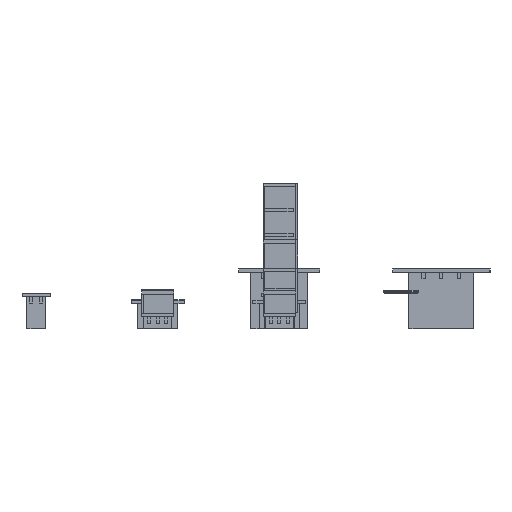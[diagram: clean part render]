
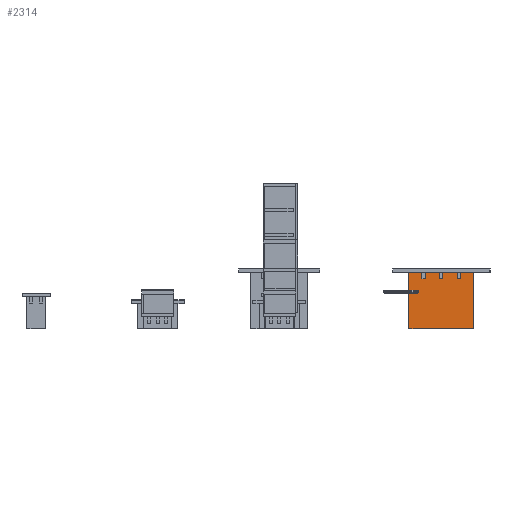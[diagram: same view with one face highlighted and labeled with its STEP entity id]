
A CAD part, left-side view. The second image highlights one B-rep face of the part: STEP entity #2314.
In plain terms, the highlighted planar face has unit normal (-1, 0, 0).
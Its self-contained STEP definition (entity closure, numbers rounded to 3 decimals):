
#2314=ADVANCED_FACE('',(#5424),#45148,.T.);
#5424=FACE_OUTER_BOUND('',#8538,.T.);
#8538=EDGE_LOOP('',(#13907,#13908,#13909,#13910,#13911,#13912,#13913,#13914,
#13915,#13916,#13917,#13918,#13919,#13920,#13921,#13922));
#13907=ORIENTED_EDGE('',*,*,#27146,.T.);
#13908=ORIENTED_EDGE('',*,*,#27118,.F.);
#13909=ORIENTED_EDGE('',*,*,#27115,.F.);
#13910=ORIENTED_EDGE('',*,*,#27117,.T.);
#13911=ORIENTED_EDGE('',*,*,#27110,.T.);
#13912=ORIENTED_EDGE('',*,*,#27128,.F.);
#13913=ORIENTED_EDGE('',*,*,#27123,.T.);
#13914=ORIENTED_EDGE('',*,*,#27124,.T.);
#13915=ORIENTED_EDGE('',*,*,#27122,.T.);
#13916=ORIENTED_EDGE('',*,*,#27139,.F.);
#13917=ORIENTED_EDGE('',*,*,#27135,.T.);
#13918=ORIENTED_EDGE('',*,*,#27136,.T.);
#13919=ORIENTED_EDGE('',*,*,#27134,.T.);
#13920=ORIENTED_EDGE('',*,*,#27151,.F.);
#13921=ORIENTED_EDGE('',*,*,#27147,.T.);
#13922=ORIENTED_EDGE('',*,*,#27148,.T.);
#27110=EDGE_CURVE('',#40627,#40630,#34420,.T.);
#27115=EDGE_CURVE('',#40633,#40634,#34425,.T.);
#27117=EDGE_CURVE('',#40633,#40627,#34427,.T.);
#27118=EDGE_CURVE('',#40634,#40656,#34428,.T.);
#27122=EDGE_CURVE('',#40639,#40640,#34432,.T.);
#27123=EDGE_CURVE('',#40641,#40642,#34433,.T.);
#27124=EDGE_CURVE('',#40642,#40639,#34434,.T.);
#27128=EDGE_CURVE('',#40641,#40630,#34438,.T.);
#27134=EDGE_CURVE('',#40647,#40648,#34444,.T.);
#27135=EDGE_CURVE('',#40649,#40650,#34445,.T.);
#27136=EDGE_CURVE('',#40650,#40647,#34446,.T.);
#27139=EDGE_CURVE('',#40649,#40640,#34449,.T.);
#27146=EDGE_CURVE('',#40655,#40656,#34456,.T.);
#27147=EDGE_CURVE('',#40657,#40658,#34457,.T.);
#27148=EDGE_CURVE('',#40658,#40655,#34458,.T.);
#27151=EDGE_CURVE('',#40657,#40648,#34461,.T.);
#34420=B_SPLINE_CURVE_WITH_KNOTS('',1,(#58208,#58209),.UNSPECIFIED.,.F.,
 .F.,(2,2),(0.,700.),.UNSPECIFIED.);
#34425=B_SPLINE_CURVE_WITH_KNOTS('',1,(#58218,#58219),.UNSPECIFIED.,.F.,
 .F.,(2,2),(0.,700.),.UNSPECIFIED.);
#34427=B_SPLINE_CURVE_WITH_KNOTS('',1,(#58222,#58223),.UNSPECIFIED.,.F.,
 .F.,(2,2),(880.,1680.),.UNSPECIFIED.);
#34428=B_SPLINE_CURVE_WITH_KNOTS('',1,(#58224,#58225),.UNSPECIFIED.,.F.,
 .F.,(2,2),(880.,1040.),.UNSPECIFIED.);
#34432=B_SPLINE_CURVE_WITH_KNOTS('',1,(#58232,#58233),.UNSPECIFIED.,.F.,
 .F.,(2,2),(-80.,0.),.UNSPECIFIED.);
#34433=B_SPLINE_CURVE_WITH_KNOTS('',1,(#58234,#58235),.UNSPECIFIED.,.F.,
 .F.,(2,2),(-700.,-620.),.UNSPECIFIED.);
#34434=B_SPLINE_CURVE_WITH_KNOTS('',1,(#58236,#58237),.UNSPECIFIED.,.F.,
 .F.,(2,2),(0.,40.),.UNSPECIFIED.);
#34438=B_SPLINE_CURVE_WITH_KNOTS('',1,(#58244,#58245),.UNSPECIFIED.,.F.,
 .F.,(2,2),(1520.,1680.),.UNSPECIFIED.);
#34444=B_SPLINE_CURVE_WITH_KNOTS('',1,(#58256,#58257),.UNSPECIFIED.,.F.,
 .F.,(2,2),(-80.,0.),.UNSPECIFIED.);
#34445=B_SPLINE_CURVE_WITH_KNOTS('',1,(#58258,#58259),.UNSPECIFIED.,.F.,
 .F.,(2,2),(-700.,-620.),.UNSPECIFIED.);
#34446=B_SPLINE_CURVE_WITH_KNOTS('',1,(#58260,#58261),.UNSPECIFIED.,.F.,
 .F.,(2,2),(0.,40.),.UNSPECIFIED.);
#34449=B_SPLINE_CURVE_WITH_KNOTS('',1,(#58266,#58267),.UNSPECIFIED.,.F.,
 .F.,(2,2),(1300.,1480.),.UNSPECIFIED.);
#34456=B_SPLINE_CURVE_WITH_KNOTS('',1,(#58280,#58281),.UNSPECIFIED.,.F.,
 .F.,(2,2),(-80.,0.),.UNSPECIFIED.);
#34457=B_SPLINE_CURVE_WITH_KNOTS('',1,(#58282,#58283),.UNSPECIFIED.,.F.,
 .F.,(2,2),(-700.,-620.),.UNSPECIFIED.);
#34458=B_SPLINE_CURVE_WITH_KNOTS('',1,(#58284,#58285),.UNSPECIFIED.,.F.,
 .F.,(2,2),(0.,40.),.UNSPECIFIED.);
#34461=B_SPLINE_CURVE_WITH_KNOTS('',1,(#58290,#58291),.UNSPECIFIED.,.F.,
 .F.,(2,2),(1080.,1260.),.UNSPECIFIED.);
#40627=VERTEX_POINT('',#58170);
#40630=VERTEX_POINT('',#58173);
#40633=VERTEX_POINT('',#58176);
#40634=VERTEX_POINT('',#58177);
#40639=VERTEX_POINT('',#58182);
#40640=VERTEX_POINT('',#58183);
#40641=VERTEX_POINT('',#58184);
#40642=VERTEX_POINT('',#58185);
#40647=VERTEX_POINT('',#58190);
#40648=VERTEX_POINT('',#58191);
#40649=VERTEX_POINT('',#58192);
#40650=VERTEX_POINT('',#58193);
#40655=VERTEX_POINT('',#58198);
#40656=VERTEX_POINT('',#58199);
#40657=VERTEX_POINT('',#58200);
#40658=VERTEX_POINT('',#58201);
#45148=PLANE('',#48022);
#48022=AXIS2_PLACEMENT_3D('',#58155,#51052,$);
#51052=DIRECTION('',(-1.,0.,0.));
#58155=CARTESIAN_POINT('',(3280.,-1600.,0.));
#58170=CARTESIAN_POINT('',(3280.,-2400.,0.));
#58173=CARTESIAN_POINT('',(3280.,-2400.,700.));
#58176=CARTESIAN_POINT('',(3280.,-1600.,0.));
#58177=CARTESIAN_POINT('',(3280.,-1600.,700.));
#58182=CARTESIAN_POINT('',(3280.,-2200.,620.));
#58183=CARTESIAN_POINT('',(3280.,-2200.,700.));
#58184=CARTESIAN_POINT('',(3280.,-2240.,700.));
#58185=CARTESIAN_POINT('',(3280.,-2240.,620.));
#58190=CARTESIAN_POINT('',(3280.,-1980.,620.));
#58191=CARTESIAN_POINT('',(3280.,-1980.,700.));
#58192=CARTESIAN_POINT('',(3280.,-2020.,700.));
#58193=CARTESIAN_POINT('',(3280.,-2020.,620.));
#58198=CARTESIAN_POINT('',(3280.,-1760.,620.));
#58199=CARTESIAN_POINT('',(3280.,-1760.,700.));
#58200=CARTESIAN_POINT('',(3280.,-1800.,700.));
#58201=CARTESIAN_POINT('',(3280.,-1800.,620.));
#58208=CARTESIAN_POINT('',(3280.,-2400.,0.));
#58209=CARTESIAN_POINT('',(3280.,-2400.,700.));
#58218=CARTESIAN_POINT('',(3280.,-1600.,0.));
#58219=CARTESIAN_POINT('',(3280.,-1600.,700.));
#58222=CARTESIAN_POINT('',(3280.,-1600.,0.));
#58223=CARTESIAN_POINT('',(3280.,-2400.,0.));
#58224=CARTESIAN_POINT('',(3280.,-1600.,700.));
#58225=CARTESIAN_POINT('',(3280.,-1760.,700.));
#58232=CARTESIAN_POINT('',(3280.,-2200.,620.));
#58233=CARTESIAN_POINT('',(3280.,-2200.,700.));
#58234=CARTESIAN_POINT('',(3280.,-2240.,700.));
#58235=CARTESIAN_POINT('',(3280.,-2240.,620.));
#58236=CARTESIAN_POINT('',(3280.,-2240.,620.));
#58237=CARTESIAN_POINT('',(3280.,-2200.,620.));
#58244=CARTESIAN_POINT('',(3280.,-2240.,700.));
#58245=CARTESIAN_POINT('',(3280.,-2400.,700.));
#58256=CARTESIAN_POINT('',(3280.,-1980.,620.));
#58257=CARTESIAN_POINT('',(3280.,-1980.,700.));
#58258=CARTESIAN_POINT('',(3280.,-2020.,700.));
#58259=CARTESIAN_POINT('',(3280.,-2020.,620.));
#58260=CARTESIAN_POINT('',(3280.,-2020.,620.));
#58261=CARTESIAN_POINT('',(3280.,-1980.,620.));
#58266=CARTESIAN_POINT('',(3280.,-2020.,700.));
#58267=CARTESIAN_POINT('',(3280.,-2200.,700.));
#58280=CARTESIAN_POINT('',(3280.,-1760.,620.));
#58281=CARTESIAN_POINT('',(3280.,-1760.,700.));
#58282=CARTESIAN_POINT('',(3280.,-1800.,700.));
#58283=CARTESIAN_POINT('',(3280.,-1800.,620.));
#58284=CARTESIAN_POINT('',(3280.,-1800.,620.));
#58285=CARTESIAN_POINT('',(3280.,-1760.,620.));
#58290=CARTESIAN_POINT('',(3280.,-1800.,700.));
#58291=CARTESIAN_POINT('',(3280.,-1980.,700.));
